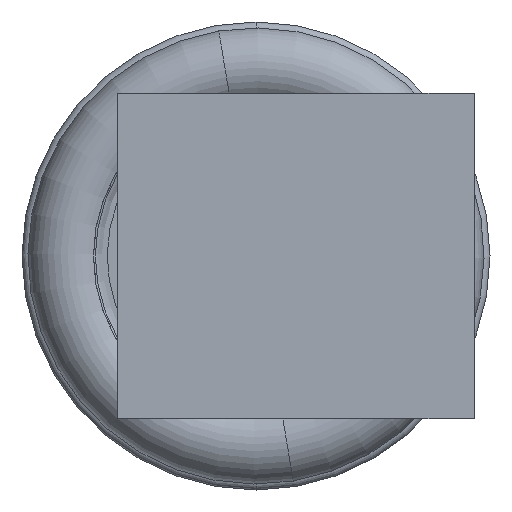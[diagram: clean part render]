
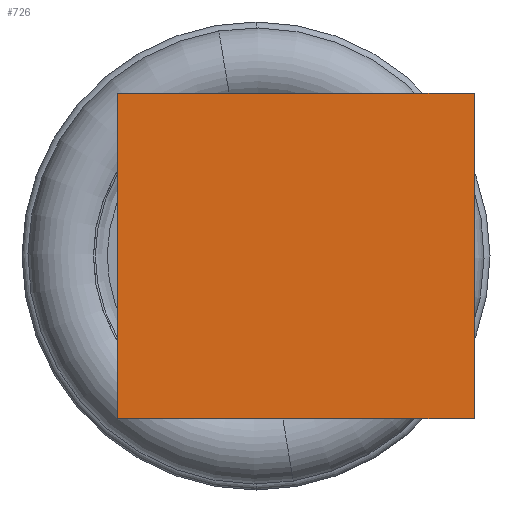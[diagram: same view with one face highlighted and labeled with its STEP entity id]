
A CAD part, left-side view. The second image highlights one B-rep face of the part: STEP entity #726.
In plain terms, the highlighted planar face has unit normal (-1, 0, 0).
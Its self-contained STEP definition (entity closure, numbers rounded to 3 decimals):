
#20 = ORIENTED_EDGE ( 'NONE', *, *, #325, .T. ) ;
#40 = DIRECTION ( 'NONE',  ( 0., 0., 1. ) ) ;
#219 = CARTESIAN_POINT ( 'NONE',  ( -124.996, -5.5, -4.1 ) ) ;
#242 = CARTESIAN_POINT ( 'NONE',  ( -124.996, 3.5, -4.1 ) ) ;
#325 = EDGE_CURVE ( 'NONE', #692, #2209, #813, .T. ) ;
#632 = CARTESIAN_POINT ( 'NONE',  ( -124.996, 3.5, -12.5 ) ) ;
#653 = VECTOR ( 'NONE', #2333, 1000. ) ;
#692 = VERTEX_POINT ( 'NONE', #1885 ) ;
#726 = ADVANCED_FACE ( 'NONE', ( #908 ), #978, .T. ) ;
#732 = LINE ( 'NONE', #928, #1930 ) ;
#797 = ORIENTED_EDGE ( 'NONE', *, *, #2426, .F. ) ;
#813 = LINE ( 'NONE', #1082, #2449 ) ;
#908 = FACE_OUTER_BOUND ( 'NONE', #2927, .T. ) ;
#928 = CARTESIAN_POINT ( 'NONE',  ( -124.996, -12.5, -4.1 ) ) ;
#978 = PLANE ( 'NONE',  #1649 ) ;
#989 = LINE ( 'NONE', #632, #653 ) ;
#1082 = CARTESIAN_POINT ( 'NONE',  ( -124.996, -12.5, 4.1 ) ) ;
#1164 = VERTEX_POINT ( 'NONE', #242 ) ;
#1192 = DIRECTION ( 'NONE',  ( 0., 0., -1. ) ) ;
#1232 = VERTEX_POINT ( 'NONE', #219 ) ;
#1293 = EDGE_CURVE ( 'NONE', #1232, #1164, #732, .T. ) ;
#1450 = CARTESIAN_POINT ( 'NONE',  ( -124.996, -12.5, 0. ) ) ;
#1568 = LINE ( 'NONE', #3093, #1987 ) ;
#1649 = AXIS2_PLACEMENT_3D ( 'NONE', #1450, #2675, #40 ) ;
#1856 = CARTESIAN_POINT ( 'NONE',  ( -124.996, 3.5, 4.1 ) ) ;
#1885 = CARTESIAN_POINT ( 'NONE',  ( -124.996, -5.5, 4.1 ) ) ;
#1930 = VECTOR ( 'NONE', #2131, 1000. ) ;
#1987 = VECTOR ( 'NONE', #1192, 1000. ) ;
#2131 = DIRECTION ( 'NONE',  ( 0., 1., 0. ) ) ;
#2207 = ORIENTED_EDGE ( 'NONE', *, *, #2906, .T. ) ;
#2209 = VERTEX_POINT ( 'NONE', #1856 ) ;
#2333 = DIRECTION ( 'NONE',  ( 0., 0., -1. ) ) ;
#2426 = EDGE_CURVE ( 'NONE', #692, #1232, #1568, .T. ) ;
#2449 = VECTOR ( 'NONE', #2542, 1000. ) ;
#2542 = DIRECTION ( 'NONE',  ( 0., 1., 0. ) ) ;
#2675 = DIRECTION ( 'NONE',  ( -1., 0., 0. ) ) ;
#2906 = EDGE_CURVE ( 'NONE', #2209, #1164, #989, .T. ) ;
#2927 = EDGE_LOOP ( 'NONE', ( #2207, #3008, #797, #20 ) ) ;
#3008 = ORIENTED_EDGE ( 'NONE', *, *, #1293, .F. ) ;
#3093 = CARTESIAN_POINT ( 'NONE',  ( -124.996, -5.5, -12.5 ) ) ;
